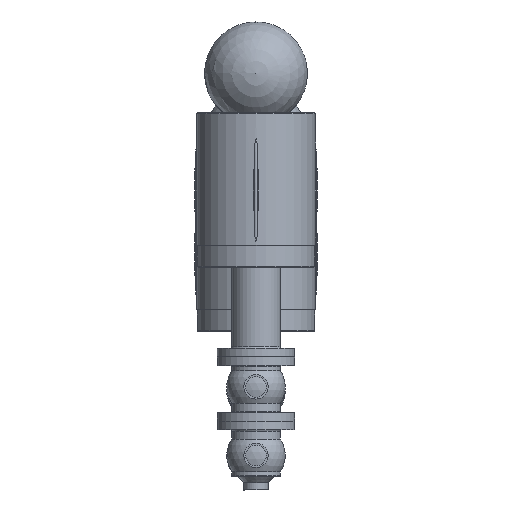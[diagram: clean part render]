
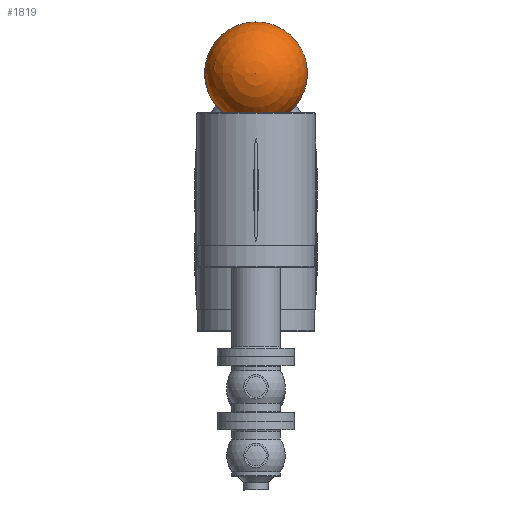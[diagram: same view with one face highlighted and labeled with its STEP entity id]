
A CAD part, front view. The second image highlights one B-rep face of the part: STEP entity #1819.
In plain terms, the highlighted spherical face has radius 72.5 mm.
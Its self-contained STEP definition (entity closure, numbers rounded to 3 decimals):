
#210=SPHERICAL_SURFACE('',#2202,72.5);
#234=FACE_BOUND('',#474,.T.);
#348=FACE_OUTER_BOUND('',#473,.T.);
#473=EDGE_LOOP('',(#1564,#1565));
#474=EDGE_LOOP('',(#1566));
#724=CIRCLE('',#2203,72.5);
#725=CIRCLE('',#2204,46.648);
#913=VERTEX_POINT('',#3691);
#914=VERTEX_POINT('',#3692);
#915=VERTEX_POINT('',#3694);
#1142=EDGE_CURVE('',#913,#914,#724,.T.);
#1143=EDGE_CURVE('',#915,#915,#725,.T.);
#1564=ORIENTED_EDGE('',*,*,#1142,.T.);
#1565=ORIENTED_EDGE('',*,*,#1142,.F.);
#1566=ORIENTED_EDGE('',*,*,#1143,.F.);
#1819=ADVANCED_FACE('',(#348,#234),#210,.T.);
#2202=AXIS2_PLACEMENT_3D('',#3690,#2742,#2743);
#2203=AXIS2_PLACEMENT_3D('',#3693,#2744,#2745);
#2204=AXIS2_PLACEMENT_3D('',#3695,#2746,#2747);
#2742=DIRECTION('center_axis',(0.,0.,1.));
#2743=DIRECTION('ref_axis',(1.,0.,0.));
#2744=DIRECTION('center_axis',(0.,-1.,0.));
#2745=DIRECTION('ref_axis',(-1.,0.,0.));
#2746=DIRECTION('center_axis',(0.,-1.,0.));
#2747=DIRECTION('ref_axis',(1.,0.,0.));
#3690=CARTESIAN_POINT('Origin',(150.,266.5,0.));
#3691=CARTESIAN_POINT('',(150.,266.5,72.5));
#3692=CARTESIAN_POINT('',(150.,266.5,-72.5));
#3693=CARTESIAN_POINT('Origin',(150.,266.5,0.));
#3694=CARTESIAN_POINT('',(196.648,211.,0.));
#3695=CARTESIAN_POINT('Origin',(150.,211.,0.));
